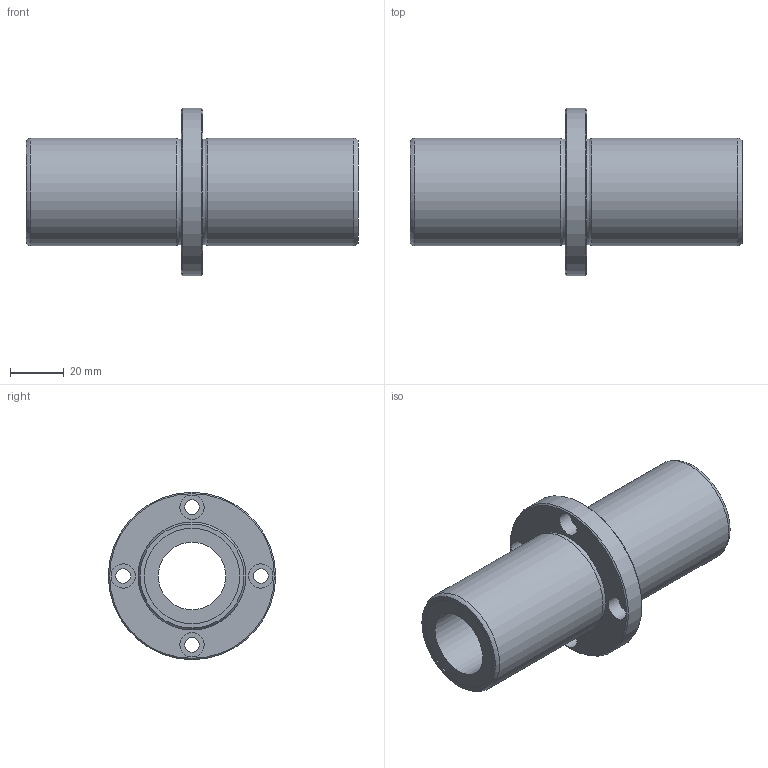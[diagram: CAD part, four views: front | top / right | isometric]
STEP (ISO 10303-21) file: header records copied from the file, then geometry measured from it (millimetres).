
FILE_DESCRIPTION((''),'2;1');
FILE_NAME('D:\製品 (図面)\カタログ用3D\メンテナンスフリー関連\STEP形式\LFDC-MF\LFDC25MF.stp','2010-06-01T15:39:40',('Tsuchiya'),(''),'Autodesk Inventor 10','Autodesk Inventor 10','');
FILE_SCHEMA(('AUTOMOTIVE_DESIGN { 1 0 10303 214 1 1 1 1 }'));
Length unit declared in the file: millimetre
Products named in the file (1): LFDC25MF
Bounding box: 123 x 62 x 62 mm (x, y, z)
Volume: 106247.4 mm3; surface area: 31201.2 mm2
Topology: 1 solids, 1 shells, 30 faces, 54 edges, 34 vertices
Faces by surface type: cylinder 14, plane 10, cone 2, torus 2, bspline 2
Full cylindrical faces by diameter (mm): 5.5 x4, 9 x4, 25 x1, 35.3 x2, 40 x2, 62 x1
Entity records: 803 total; most frequent: CARTESIAN_POINT 223, DIRECTION 126, ORIENTED_EDGE 68, EDGE_LOOP 68, AXIS2_PLACEMENT_3D 63, FACE_BOUND 38, VERTEX_POINT 34, CIRCLE 34
